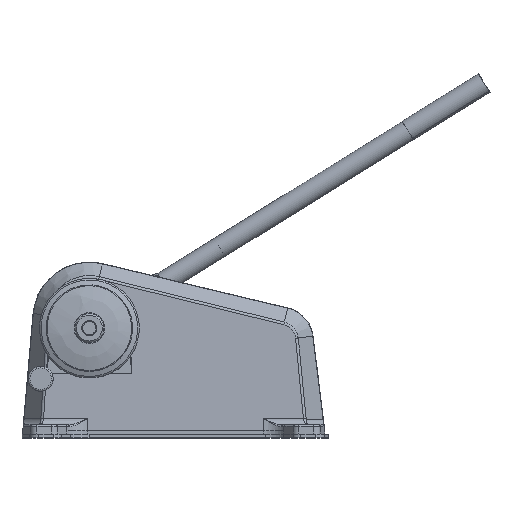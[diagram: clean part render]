
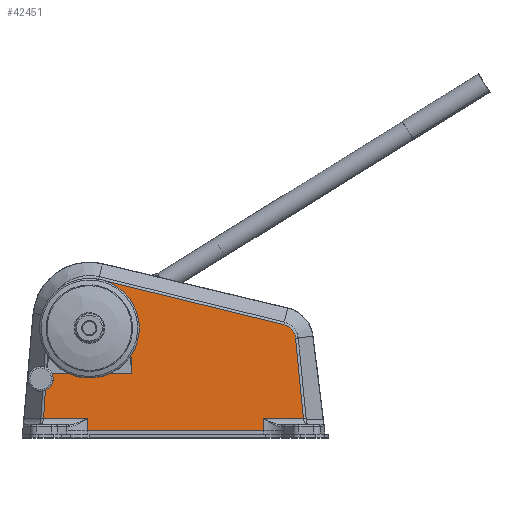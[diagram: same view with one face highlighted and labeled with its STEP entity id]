
A CAD part, top view. The second image highlights one B-rep face of the part: STEP entity #42451.
In plain terms, the highlighted planar face has unit normal (0, 0.035, 0.999).
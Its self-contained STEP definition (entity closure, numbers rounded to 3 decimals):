
#2340=B_SPLINE_CURVE_WITH_KNOTS('',3,(#90729,#90730,#90731,#90732,#90733,
#90734,#90735),.UNSPECIFIED.,.F.,.F.,(4,1,1,1,4),(0.24,0.592,
0.768,1.121,1.473),.UNSPECIFIED.);
#2341=B_SPLINE_CURVE_WITH_KNOTS('',3,(#90739,#90740,#90741,#90742,#90743,
#90744,#90745,#90746,#90747,#90748),.UNSPECIFIED.,.F.,.F.,(4,1,1,1,1,1,
1,4),(-1.508,-1.258,-1.008,-0.759,
-0.509,-0.259,-0.01,0.24),
 .UNSPECIFIED.);
#2516=ELLIPSE('',#46073,15.009,15.);
#2517=ELLIPSE('',#46074,15.009,15.);
#2518=ELLIPSE('',#46075,28.763,1.);
#2519=ELLIPSE('',#46076,46.028,46.);
#2520=ELLIPSE('',#46077,28.763,1.);
#5655=FACE_OUTER_BOUND('',#8240,.T.);
#8240=EDGE_LOOP('',(#34976,#34977,#34978,#34979,#34980,#34981,#34982,#34983,
#34984,#34985,#34986,#34987,#34988,#34989,#34990,#34991,#34992,#34993,#34994));
#10630=LINE('',#90711,#13253);
#10631=LINE('',#90715,#13254);
#10632=LINE('',#90717,#13255);
#10633=LINE('',#90719,#13256);
#10634=LINE('',#90721,#13257);
#10635=LINE('',#90723,#13258);
#10636=LINE('',#90725,#13259);
#10637=LINE('',#90727,#13260);
#10638=LINE('',#90737,#13261);
#10639=LINE('',#90750,#13262);
#10640=LINE('',#90756,#13263);
#10641=LINE('',#90760,#13264);
#13253=VECTOR('',#54556,10.);
#13254=VECTOR('',#54559,10.);
#13255=VECTOR('',#54560,10.);
#13256=VECTOR('',#54561,10.);
#13257=VECTOR('',#54562,10.);
#13258=VECTOR('',#54563,10.);
#13259=VECTOR('',#54564,10.);
#13260=VECTOR('',#54565,10.);
#13261=VECTOR('',#54566,10.);
#13262=VECTOR('',#54567,10.);
#13263=VECTOR('',#54572,10.);
#13264=VECTOR('',#54575,10.);
#18943=VERTEX_POINT('',#90709);
#18944=VERTEX_POINT('',#90710);
#18945=VERTEX_POINT('',#90712);
#18946=VERTEX_POINT('',#90714);
#18947=VERTEX_POINT('',#90716);
#18948=VERTEX_POINT('',#90718);
#18949=VERTEX_POINT('',#90720);
#18950=VERTEX_POINT('',#90722);
#18951=VERTEX_POINT('',#90724);
#18952=VERTEX_POINT('',#90726);
#18953=VERTEX_POINT('',#90728);
#18954=VERTEX_POINT('',#90736);
#18955=VERTEX_POINT('',#90738);
#18956=VERTEX_POINT('',#90749);
#18957=VERTEX_POINT('',#90751);
#18958=VERTEX_POINT('',#90753);
#18959=VERTEX_POINT('',#90755);
#18960=VERTEX_POINT('',#90757);
#18961=VERTEX_POINT('',#90759);
#24542=EDGE_CURVE('',#18943,#18944,#10630,.T.);
#24543=EDGE_CURVE('',#18943,#18945,#2516,.T.);
#24544=EDGE_CURVE('',#18946,#18945,#10631,.T.);
#24545=EDGE_CURVE('',#18947,#18946,#10632,.T.);
#24546=EDGE_CURVE('',#18948,#18947,#10633,.T.);
#24547=EDGE_CURVE('',#18948,#18949,#10634,.T.);
#24548=EDGE_CURVE('',#18950,#18949,#10635,.T.);
#24549=EDGE_CURVE('',#18951,#18950,#10636,.T.);
#24550=EDGE_CURVE('',#18952,#18951,#10637,.T.);
#24551=EDGE_CURVE('',#18953,#18952,#2340,.T.);
#24552=EDGE_CURVE('',#18954,#18953,#10638,.T.);
#24553=EDGE_CURVE('',#18955,#18954,#2341,.T.);
#24554=EDGE_CURVE('',#18956,#18955,#10639,.T.);
#24555=EDGE_CURVE('',#18956,#18957,#2517,.T.);
#24556=EDGE_CURVE('',#18958,#18957,#2518,.F.);
#24557=EDGE_CURVE('',#18958,#18959,#10640,.T.);
#24558=EDGE_CURVE('',#18959,#18960,#2519,.T.);
#24559=EDGE_CURVE('',#18960,#18961,#10641,.T.);
#24560=EDGE_CURVE('',#18944,#18961,#2520,.F.);
#34976=ORIENTED_EDGE('',*,*,#24542,.F.);
#34977=ORIENTED_EDGE('',*,*,#24543,.T.);
#34978=ORIENTED_EDGE('',*,*,#24544,.F.);
#34979=ORIENTED_EDGE('',*,*,#24545,.F.);
#34980=ORIENTED_EDGE('',*,*,#24546,.F.);
#34981=ORIENTED_EDGE('',*,*,#24547,.T.);
#34982=ORIENTED_EDGE('',*,*,#24548,.F.);
#34983=ORIENTED_EDGE('',*,*,#24549,.F.);
#34984=ORIENTED_EDGE('',*,*,#24550,.F.);
#34985=ORIENTED_EDGE('',*,*,#24551,.F.);
#34986=ORIENTED_EDGE('',*,*,#24552,.F.);
#34987=ORIENTED_EDGE('',*,*,#24553,.F.);
#34988=ORIENTED_EDGE('',*,*,#24554,.F.);
#34989=ORIENTED_EDGE('',*,*,#24555,.T.);
#34990=ORIENTED_EDGE('',*,*,#24556,.F.);
#34991=ORIENTED_EDGE('',*,*,#24557,.T.);
#34992=ORIENTED_EDGE('',*,*,#24558,.T.);
#34993=ORIENTED_EDGE('',*,*,#24559,.T.);
#34994=ORIENTED_EDGE('',*,*,#24560,.F.);
#40589=PLANE('',#46072);
#42451=ADVANCED_FACE('',(#5655),#40589,.T.);
#46072=AXIS2_PLACEMENT_3D('',#90708,#54554,#54555);
#46073=AXIS2_PLACEMENT_3D('',#90713,#54557,#54558);
#46074=AXIS2_PLACEMENT_3D('',#90752,#54568,#54569);
#46075=AXIS2_PLACEMENT_3D('',#90754,#54570,#54571);
#46076=AXIS2_PLACEMENT_3D('',#90758,#54573,#54574);
#46077=AXIS2_PLACEMENT_3D('',#90761,#54576,#54577);
#54554=DIRECTION('center_axis',(0.,0.035,0.999));
#54555=DIRECTION('ref_axis',(1.,0.,0.));
#54556=DIRECTION('',(1.,0.,0.));
#54557=DIRECTION('center_axis',(0.,-0.035,-0.999));
#54558=DIRECTION('ref_axis',(0.,-0.999,0.035));
#54559=DIRECTION('',(0.063,0.997,-0.035));
#54560=DIRECTION('',(-1.,0.,0.));
#54561=DIRECTION('',(0.024,0.999,-0.035));
#54562=DIRECTION('',(1.,0.,0.));
#54563=DIRECTION('',(0.024,-0.999,0.035));
#54564=DIRECTION('',(-1.,0.,0.));
#54565=DIRECTION('',(0.098,-0.995,0.035));
#54566=DIRECTION('',(0.971,-0.238,0.008));
#54567=DIRECTION('',(0.063,0.997,-0.035));
#54568=DIRECTION('center_axis',(0.,-0.035,-0.999));
#54569=DIRECTION('ref_axis',(0.,-0.999,0.035));
#54570=DIRECTION('center_axis',(0.,-0.035,-0.999));
#54571=DIRECTION('ref_axis',(-0.087,-0.996,0.035));
#54572=DIRECTION('',(0.087,0.996,-0.035));
#54573=DIRECTION('center_axis',(0.,-0.035,-0.999));
#54574=DIRECTION('ref_axis',(0.,-0.999,0.035));
#54575=DIRECTION('',(0.087,-0.996,0.035));
#54576=DIRECTION('center_axis',(0.,-0.035,-0.999));
#54577=DIRECTION('ref_axis',(0.087,-0.996,0.035));
#90708=CARTESIAN_POINT('Origin',(94.484,75.57,67.361));
#90709=CARTESIAN_POINT('',(-44.744,71.544,67.502));
#90710=CARTESIAN_POINT('',(50.986,71.544,67.502));
#90711=CARTESIAN_POINT('',(47.242,71.544,67.502));
#90712=CARTESIAN_POINT('',(-52.913,51.642,68.197));
#90713=CARTESIAN_POINT('Origin',(-58.5,65.563,67.711));
#90714=CARTESIAN_POINT('',(-55.05,17.721,69.381));
#90715=CARTESIAN_POINT('',(-53.562,41.333,68.557));
#90716=CARTESIAN_POINT('',(-2.016,17.721,69.381));
#90717=CARTESIAN_POINT('',(21.901,17.721,69.381));
#90718=CARTESIAN_POINT('',(-2.376,3.,69.895));
#90719=CARTESIAN_POINT('',(-1.52,37.999,68.673));
#90720=CARTESIAN_POINT('',(209.376,3.,69.895));
#90721=CARTESIAN_POINT('',(93.198,3.,69.895));
#90722=CARTESIAN_POINT('',(209.016,17.721,69.381));
#90723=CARTESIAN_POINT('',(208.495,39.014,68.638));
#90724=CARTESIAN_POINT('',(257.437,17.721,69.381));
#90725=CARTESIAN_POINT('',(176.645,17.721,69.381));
#90726=CARTESIAN_POINT('',(247.94,114.419,66.004));
#90727=CARTESIAN_POINT('',(249.112,102.488,66.421));
#90728=CARTESIAN_POINT('',(233.814,130.718,65.435));
#90729=CARTESIAN_POINT('Ctrl Pts',(233.814,130.718,65.435));
#90730=CARTESIAN_POINT('Ctrl Pts',(235.941,130.197,65.453));
#90731=CARTESIAN_POINT('Ctrl Pts',(238.99,128.846,65.501));
#90732=CARTESIAN_POINT('Ctrl Pts',(243.263,125.388,65.621));
#90733=CARTESIAN_POINT('Ctrl Pts',(246.522,120.883,65.779));
#90734=CARTESIAN_POINT('Ctrl Pts',(247.726,116.599,65.928));
#90735=CARTESIAN_POINT('Ctrl Pts',(247.94,114.419,66.004));
#90736=CARTESIAN_POINT('',(11.251,185.245,63.531));
#90737=CARTESIAN_POINT('',(63.246,172.507,63.976));
#90738=CARTESIAN_POINT('',(-47.202,142.269,65.032));
#90739=CARTESIAN_POINT('Ctrl Pts',(-47.202,142.269,65.032));
#90740=CARTESIAN_POINT('Ctrl Pts',(-46.955,146.2,64.895));
#90741=CARTESIAN_POINT('Ctrl Pts',(-45.474,153.998,64.622));
#90742=CARTESIAN_POINT('Ctrl Pts',(-40.43,164.783,64.246));
#90743=CARTESIAN_POINT('Ctrl Pts',(-32.879,173.988,63.924));
#90744=CARTESIAN_POINT('Ctrl Pts',(-23.287,181.038,63.678));
#90745=CARTESIAN_POINT('Ctrl Pts',(-12.251,185.501,63.522));
#90746=CARTESIAN_POINT('Ctrl Pts',(-0.455,187.096,
63.466));
#90747=CARTESIAN_POINT('Ctrl Pts',(7.428,186.182,63.498));
#90748=CARTESIAN_POINT('Ctrl Pts',(11.251,185.245,63.531));
#90749=CARTESIAN_POINT('',(-51.21,78.672,67.253));
#90750=CARTESIAN_POINT('',(-53.562,41.333,68.557));
#90751=CARTESIAN_POINT('',(-51.03,78.57,67.256));
#90752=CARTESIAN_POINT('Origin',(-58.5,65.563,67.711));
#90753=CARTESIAN_POINT('',(-49.484,100.181,66.502));
#90754=CARTESIAN_POINT('Origin',(-48.481,100.181,66.502));
#90755=CARTESIAN_POINT('',(-45.825,142.009,65.041));
#90756=CARTESIAN_POINT('',(-50.728,85.965,66.998));
#90757=CARTESIAN_POINT('',(45.825,142.009,65.041));
#90758=CARTESIAN_POINT('Origin',(0.,138.,65.181));
#90759=CARTESIAN_POINT('',(49.484,100.181,66.502));
#90760=CARTESIAN_POINT('',(48.795,108.058,66.227));
#90761=CARTESIAN_POINT('Origin',(48.481,100.181,66.502));
